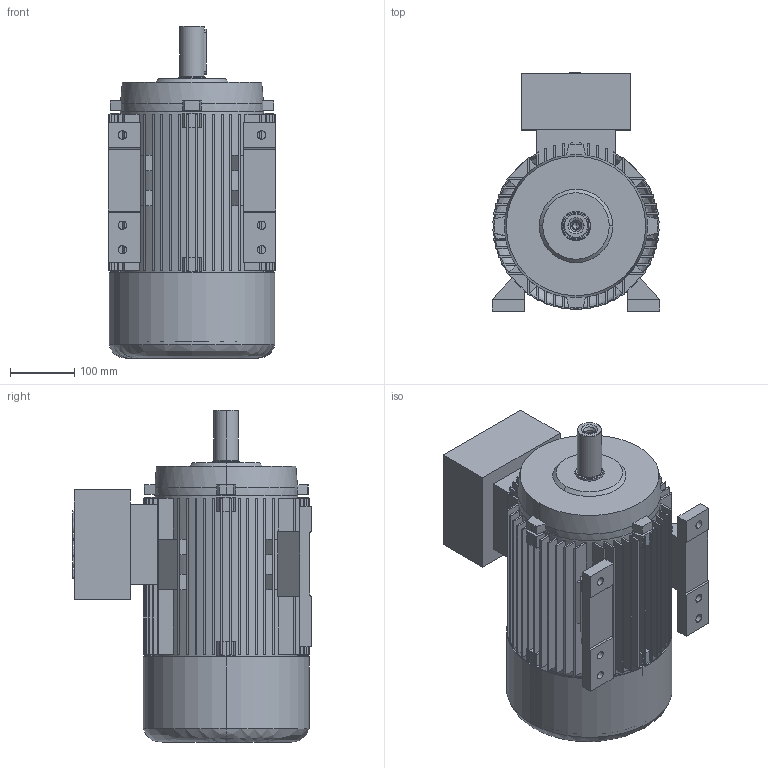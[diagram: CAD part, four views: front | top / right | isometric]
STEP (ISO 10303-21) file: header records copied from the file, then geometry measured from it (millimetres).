
FILE_DESCRIPTION (( 'STEP AP214' ), '1' );
FILE_NAME ('7AZ 132S&M B3 STANDK.STEP', '2018-05-07T11:53:01', ( '' ), ( '' ), 'SwSTEP 2.0', 'SolidWorks 2017', '' );
FILE_SCHEMA (( 'AUTOMOTIVE_DESIGN' ));
Length unit declared in the file: millimetre
Products named in the file (1): 7AZ 132S&M B3 STANDK
Bounding box: 260 x 370 x 515 mm (x, y, z)
Volume: 8245500.7 mm3; surface area: 1640380.2 mm2
Topology: 9 solids, 9 shells, 689 faces, 1854 edges, 1221 vertices
Faces by surface type: plane 483, cylinder 163, cone 30, bspline 13
Entity records: 22325 total; most frequent: CARTESIAN_POINT 4536, DIRECTION 3716, ORIENTED_EDGE 3688, EDGE_CURVE 1844, VECTOR 1242, LINE 1242, AXIS2_PLACEMENT_3D 1237, VERTEX_POINT 1221
